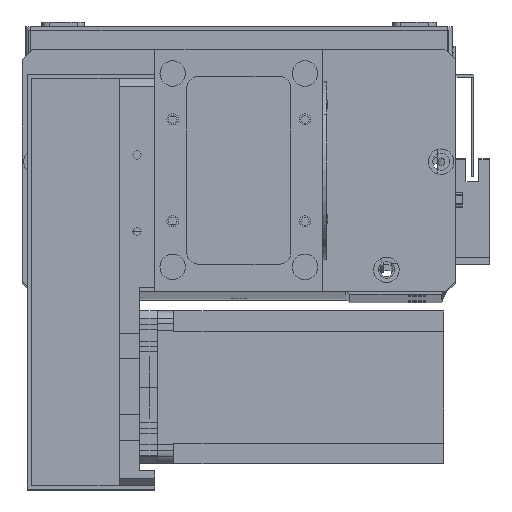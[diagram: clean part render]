
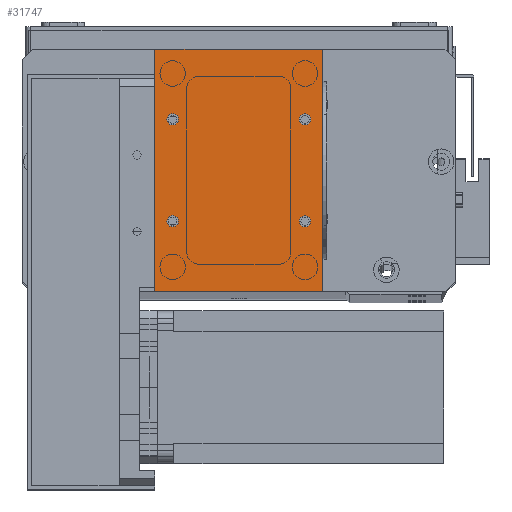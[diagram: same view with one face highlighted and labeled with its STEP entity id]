
A CAD part, top view. The second image highlights one B-rep face of the part: STEP entity #31747.
In plain terms, the highlighted planar face has unit normal (0, 0, 1).
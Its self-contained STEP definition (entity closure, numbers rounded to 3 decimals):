
#58 = CARTESIAN_POINT ( 'NONE',  ( 0., 95., 2. ) ) ;
#1042 = CARTESIAN_POINT ( 'NONE',  ( 56.75, 27.5, 2. ) ) ;
#1110 = CARTESIAN_POINT ( 'NONE',  ( 59., 67.5, 2. ) ) ;
#1704 = CARTESIAN_POINT ( 'NONE',  ( 9.25, 27.5, 2. ) ) ;
#1753 = CARTESIAN_POINT ( 'NONE',  ( 0., 0., 2. ) ) ;
#2570 = CIRCLE ( 'NONE', #5545, 2.25 ) ;
#2624 = CIRCLE ( 'NONE', #13076, 2.25 ) ;
#3006 = VERTEX_POINT ( 'NONE', #10076 ) ;
#3630 = FACE_BOUND ( 'NONE', #15524, .T. ) ;
#3636 = DIRECTION ( 'NONE',  ( 1., 0., 0. ) ) ;
#4189 = AXIS2_PLACEMENT_3D ( 'NONE', #10135, #15277, #19231 ) ;
#4435 = FACE_BOUND ( 'NONE', #23067, .T. ) ;
#4543 = ORIENTED_EDGE ( 'NONE', *, *, #26556, .T. ) ;
#5173 = EDGE_CURVE ( 'NONE', #28149, #3006, #27271, .T. ) ;
#5526 = DIRECTION ( 'NONE',  ( 0., 0., 1. ) ) ;
#5545 = AXIS2_PLACEMENT_3D ( 'NONE', #20750, #5526, #23347 ) ;
#5799 = CARTESIAN_POINT ( 'NONE',  ( 66., 0., 2. ) ) ;
#6467 = CARTESIAN_POINT ( 'NONE',  ( 7., 27.5, 2. ) ) ;
#6568 = AXIS2_PLACEMENT_3D ( 'NONE', #27417, #12172, #29961 ) ;
#6966 = VERTEX_POINT ( 'NONE', #12458 ) ;
#7106 = CARTESIAN_POINT ( 'NONE',  ( 59., 67.5, 2. ) ) ;
#7220 = VERTEX_POINT ( 'NONE', #31101 ) ;
#7352 = CARTESIAN_POINT ( 'NONE',  ( 7., 67.5, 2. ) ) ;
#7354 = CIRCLE ( 'NONE', #29237, 2.25 ) ;
#7627 = DIRECTION ( 'NONE',  ( 0., 0., 1. ) ) ;
#7658 = DIRECTION ( 'NONE',  ( -1., 0., 0. ) ) ;
#7777 = VECTOR ( 'NONE', #7658, 1000. ) ;
#7864 = EDGE_LOOP ( 'NONE', ( #17088, #9323 ) ) ;
#8127 = ORIENTED_EDGE ( 'NONE', *, *, #9420, .F. ) ;
#8160 = ORIENTED_EDGE ( 'NONE', *, *, #12170, .F. ) ;
#9067 = DIRECTION ( 'NONE',  ( 1., 0., 0. ) ) ;
#9282 = LINE ( 'NONE', #20059, #15296 ) ;
#9323 = ORIENTED_EDGE ( 'NONE', *, *, #28976, .F. ) ;
#9420 = EDGE_CURVE ( 'NONE', #7220, #6966, #24228, .T. ) ;
#9661 = DIRECTION ( 'NONE',  ( 1., 0., 0. ) ) ;
#9930 = DIRECTION ( 'NONE',  ( 1., 0., 0. ) ) ;
#10076 = CARTESIAN_POINT ( 'NONE',  ( 0., 95., 2. ) ) ;
#10135 = CARTESIAN_POINT ( 'NONE',  ( 0., 0., 2. ) ) ;
#10447 = FACE_BOUND ( 'NONE', #19987, .T. ) ;
#10905 = AXIS2_PLACEMENT_3D ( 'NONE', #14770, #32542, #17347 ) ;
#11169 = LINE ( 'NONE', #30193, #16363 ) ;
#11596 = CARTESIAN_POINT ( 'NONE',  ( 66., 95., 2. ) ) ;
#11634 = AXIS2_PLACEMENT_3D ( 'NONE', #6467, #24314, #9067 ) ;
#12170 = EDGE_CURVE ( 'NONE', #12255, #14326, #32454, .T. ) ;
#12172 = DIRECTION ( 'NONE',  ( 0., 0., 1. ) ) ;
#12255 = VERTEX_POINT ( 'NONE', #17494 ) ;
#12350 = ORIENTED_EDGE ( 'NONE', *, *, #29492, .F. ) ;
#12383 = DIRECTION ( 'NONE',  ( 1., 0., 0. ) ) ;
#12458 = CARTESIAN_POINT ( 'NONE',  ( 4.75, 67.5, 2. ) ) ;
#12580 = EDGE_CURVE ( 'NONE', #19990, #23685, #2570, .T. ) ;
#13076 = AXIS2_PLACEMENT_3D ( 'NONE', #22864, #7627, #25469 ) ;
#13256 = CARTESIAN_POINT ( 'NONE',  ( 61.25, 27.5, 2. ) ) ;
#13356 = ORIENTED_EDGE ( 'NONE', *, *, #13952, .F. ) ;
#13604 = EDGE_CURVE ( 'NONE', #6966, #7220, #7354, .T. ) ;
#13952 = EDGE_CURVE ( 'NONE', #30664, #17250, #24866, .T. ) ;
#14326 = VERTEX_POINT ( 'NONE', #16318 ) ;
#14770 = CARTESIAN_POINT ( 'NONE',  ( 59., 27.5, 2. ) ) ;
#15277 = DIRECTION ( 'NONE',  ( 0., 0., -1. ) ) ;
#15296 = VECTOR ( 'NONE', #19946, 1000. ) ;
#15524 = EDGE_LOOP ( 'NONE', ( #8127, #31148 ) ) ;
#16190 = CIRCLE ( 'NONE', #17226, 2.25 ) ;
#16318 = CARTESIAN_POINT ( 'NONE',  ( 61.25, 67.5, 2. ) ) ;
#16363 = VECTOR ( 'NONE', #12383, 1000. ) ;
#17026 = CIRCLE ( 'NONE', #11634, 2.25 ) ;
#17088 = ORIENTED_EDGE ( 'NONE', *, *, #12580, .F. ) ;
#17226 = AXIS2_PLACEMENT_3D ( 'NONE', #1110, #18929, #3636 ) ;
#17250 = VERTEX_POINT ( 'NONE', #13256 ) ;
#17347 = DIRECTION ( 'NONE',  ( 1., 0., 0. ) ) ;
#17494 = CARTESIAN_POINT ( 'NONE',  ( 56.75, 67.5, 2. ) ) ;
#17732 = PLANE ( 'NONE',  #4189 ) ;
#17800 = VECTOR ( 'NONE', #26185, 1000. ) ;
#18929 = DIRECTION ( 'NONE',  ( 0., 0., 1. ) ) ;
#19200 = ORIENTED_EDGE ( 'NONE', *, *, #30969, .T. ) ;
#19231 = DIRECTION ( 'NONE',  ( -1., 0., 0. ) ) ;
#19348 = LINE ( 'NONE', #5799, #17800 ) ;
#19404 = VERTEX_POINT ( 'NONE', #1753 ) ;
#19946 = DIRECTION ( 'NONE',  ( 0., -1., 0. ) ) ;
#19987 = EDGE_LOOP ( 'NONE', ( #20162, #13356 ) ) ;
#19990 = VERTEX_POINT ( 'NONE', #1704 ) ;
#20059 = CARTESIAN_POINT ( 'NONE',  ( 0., 0., 2. ) ) ;
#20068 = ORIENTED_EDGE ( 'NONE', *, *, #5173, .T. ) ;
#20162 = ORIENTED_EDGE ( 'NONE', *, *, #21617, .F. ) ;
#20444 = AXIS2_PLACEMENT_3D ( 'NONE', #7106, #24936, #9661 ) ;
#20750 = CARTESIAN_POINT ( 'NONE',  ( 7., 27.5, 2. ) ) ;
#21617 = EDGE_CURVE ( 'NONE', #17250, #30664, #2624, .T. ) ;
#22402 = ORIENTED_EDGE ( 'NONE', *, *, #29424, .T. ) ;
#22864 = CARTESIAN_POINT ( 'NONE',  ( 59., 27.5, 2. ) ) ;
#23067 = EDGE_LOOP ( 'NONE', ( #12350, #8160 ) ) ;
#23183 = FACE_OUTER_BOUND ( 'NONE', #31038, .T. ) ;
#23347 = DIRECTION ( 'NONE',  ( 1., 0., 0. ) ) ;
#23429 = CARTESIAN_POINT ( 'NONE',  ( 4.75, 27.5, 2. ) ) ;
#23685 = VERTEX_POINT ( 'NONE', #23429 ) ;
#24228 = CIRCLE ( 'NONE', #6568, 2.25 ) ;
#24314 = DIRECTION ( 'NONE',  ( 0., 0., 1. ) ) ;
#24866 = CIRCLE ( 'NONE', #10905, 2.25 ) ;
#24936 = DIRECTION ( 'NONE',  ( 0., 0., 1. ) ) ;
#25177 = DIRECTION ( 'NONE',  ( 0., 0., 1. ) ) ;
#25469 = DIRECTION ( 'NONE',  ( 1., 0., 0. ) ) ;
#26185 = DIRECTION ( 'NONE',  ( 0., 1., 0. ) ) ;
#26556 = EDGE_CURVE ( 'NONE', #19404, #31669, #11169, .T. ) ;
#27271 = LINE ( 'NONE', #58, #7777 ) ;
#27417 = CARTESIAN_POINT ( 'NONE',  ( 7., 67.5, 2. ) ) ;
#28149 = VERTEX_POINT ( 'NONE', #11596 ) ;
#28976 = EDGE_CURVE ( 'NONE', #23685, #19990, #17026, .T. ) ;
#29237 = AXIS2_PLACEMENT_3D ( 'NONE', #7352, #25177, #9930 ) ;
#29424 = EDGE_CURVE ( 'NONE', #31669, #28149, #19348, .T. ) ;
#29492 = EDGE_CURVE ( 'NONE', #14326, #12255, #16190, .T. ) ;
#29947 = FACE_BOUND ( 'NONE', #7864, .T. ) ;
#29961 = DIRECTION ( 'NONE',  ( 1., 0., 0. ) ) ;
#30181 = CARTESIAN_POINT ( 'NONE',  ( 66., 0., 2. ) ) ;
#30193 = CARTESIAN_POINT ( 'NONE',  ( 0., 0., 2. ) ) ;
#30664 = VERTEX_POINT ( 'NONE', #1042 ) ;
#30969 = EDGE_CURVE ( 'NONE', #3006, #19404, #9282, .T. ) ;
#31038 = EDGE_LOOP ( 'NONE', ( #19200, #4543, #22402, #20068 ) ) ;
#31101 = CARTESIAN_POINT ( 'NONE',  ( 9.25, 67.5, 2. ) ) ;
#31148 = ORIENTED_EDGE ( 'NONE', *, *, #13604, .F. ) ;
#31669 = VERTEX_POINT ( 'NONE', #30181 ) ;
#31747 = ADVANCED_FACE ( 'NONE', ( #3630, #4435, #10447, #29947, #23183 ), #17732, .F. ) ;
#32454 = CIRCLE ( 'NONE', #20444, 2.25 ) ;
#32542 = DIRECTION ( 'NONE',  ( 0., 0., 1. ) ) ;
